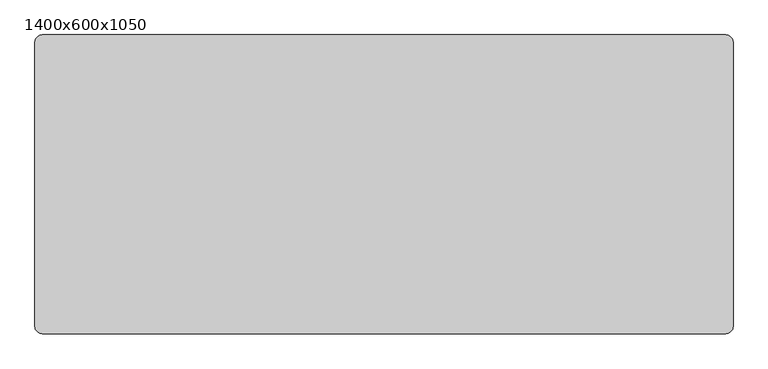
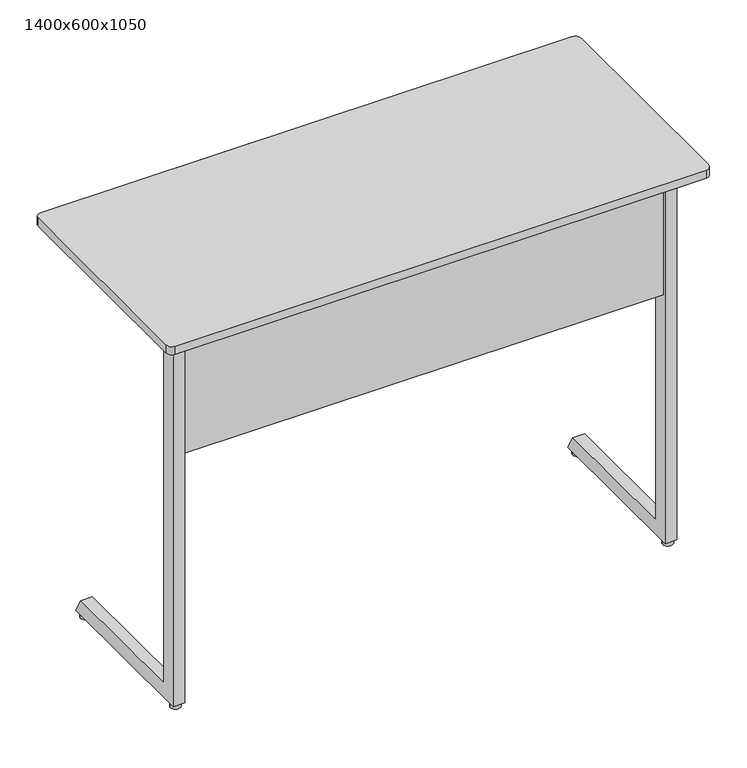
"""IFC4 building model written with IfcOpenShell, lengths in millimetres: furniture geometry, Trivia Light : 1400x600x1050."""

from ifc_helpers import new_model, si_unit, point, frame, frame_2d, origin, origin_with_axes, place, context, project, spatial, polyline, circle_curve, trimmed, segment, composite_curve, outline, extrude, source, transform, mapped, element, save


def furniture_1400x600x1050_ca868ebe(model_context):
    return source(origin(), model_context, "Body", "SweptSolid", [
        extrude(outline(polyline([(484.5100173, 1028.0), (469.9996059, 996.4981092), (104.0, 996.4977978), (104.0, 1028.0), (484.5100173, 1028.0)])), frame((-564.7535601, 0.0, 0.0), z_axis=(1.0, 0.0, 0.0), x_axis=(0.0, 1.0, 0.0)), (0.0, 0.0, 1.0), 30.0),
        extrude(outline(polyline([(1023.7997437, -567.7502136), (1000.730957, -567.7502136), (1000.730957, -599.8065042), (1005.0394353, -611.6439509), (1002.2203574, -612.6700113), (997.730957, -600.3354852), (997.730957, -564.7502136), (1023.7997437, -564.7502136), (1023.7997437, -567.7502136)])), frame((0.0, 265.0, 0.0), z_axis=(0.0, 1.0, 0.0), x_axis=(0.0, 0.0, 1.0)), (0.0, 0.0, 1.0), 30.0),
        extrude(outline(polyline([(1023.7997437, 567.7535601), (1023.7997437, 564.7535601), (997.730957, 564.7535601), (997.730957, 600.3388316), (1002.2203574, 612.6733577), (1005.0394353, 611.6472973), (1000.730957, 599.8098507), (1000.730957, 567.7535601), (1023.7997437, 567.7535601)])), frame((0.0, 265.0, 0.0), z_axis=(0.0, 1.0, 0.0), x_axis=(0.0, 0.0, 1.0)), (0.0, 0.0, 1.0), 30.0),
        extrude(outline(composite_curve([segment(trimmed(circle_curve(frame_2d((-635.0, 85.0)), 13.0), [point((-648.0, 85.0))], [point((-622.0, 85.0))], False, "CARTESIAN"), True, "CONTINUOUS"), segment(trimmed(circle_curve(frame_2d((-635.0, 85.0)), 13.0), [point((-622.0, 85.0))], [point((-648.0, 85.0))], False, "CARTESIAN"), True, "CONTINUOUS")], self_intersect=False)), origin_with_axes(), (0.0, 0.0, 1.0), 13.0905762),
        extrude(outline(composite_curve([segment(trimmed(circle_curve(frame_2d((635.0, 85.0)), 13.0), [point((622.0, 85.0))], [point((648.0, 85.0))], False, "CARTESIAN"), True, "CONTINUOUS"), segment(trimmed(circle_curve(frame_2d((635.0, 85.0)), 13.0), [point((648.0, 85.0))], [point((622.0, 85.0))], False, "CARTESIAN"), True, "CONTINUOUS")], self_intersect=False)), origin_with_axes(), (0.0, 0.0, 1.0), 13.0905762),
        extrude(outline(composite_curve([segment(trimmed(circle_curve(frame_2d((635.0, 487.5)), 13.0), [point((622.0, 487.5))], [point((648.0, 487.5))], False, "CARTESIAN"), True, "CONTINUOUS"), segment(trimmed(circle_curve(frame_2d((635.0, 487.5)), 13.0), [point((648.0, 487.5))], [point((622.0, 487.5))], False, "CARTESIAN"), True, "CONTINUOUS")], self_intersect=False)), origin_with_axes(), (0.0, 0.0, 1.0), 13.0905762),
        extrude(outline(composite_curve([segment(trimmed(circle_curve(frame_2d((-635.0, 487.5)), 13.0), [point((-648.0, 487.5))], [point((-622.0, 487.5))], False, "CARTESIAN"), True, "CONTINUOUS"), segment(trimmed(circle_curve(frame_2d((-635.0, 487.5)), 13.0), [point((-622.0, 487.5))], [point((-648.0, 487.5))], False, "CARTESIAN"), True, "CONTINUOUS")], self_intersect=False)), origin_with_axes(), (0.0, 0.0, 1.0), 13.0905762),
        extrude(outline(polyline([(484.5100173, 1028.0), (469.9996059, 996.4981092), (104.0, 996.4977978), (104.0, 1028.0), (484.5100173, 1028.0)])), frame((534.7535601, 0.0, 0.0), z_axis=(1.0, 0.0, 0.0), x_axis=(0.0, 1.0, 0.0)), (0.0, 0.0, 1.0), 30.0),
        extrude(outline(composite_curve([segment(trimmed(circle_curve(frame_2d((685.0, 585.0)), 15.0), [point((685.0, 600.0))], [point((700.0, 585.0))], False, "CARTESIAN"), True, "CONTINUOUS"), segment(polyline([(700.0, 585.0), (700.0, 15.0)]), True, "CONTINUOUS"), segment(trimmed(circle_curve(frame_2d((685.0, 15.0)), 15.0), [point((700.0, 15.0))], [point((685.0, 0.0))], False, "CARTESIAN"), True, "CONTINUOUS"), segment(polyline([(685.0, 0.0), (-685.0, 0.0)]), True, "CONTINUOUS"), segment(trimmed(circle_curve(frame_2d((-685.0, 15.0)), 15.0), [point((-685.0, 0.0))], [point((-700.0, 15.0))], False, "CARTESIAN"), True, "CONTINUOUS"), segment(polyline([(-700.0, 15.0), (-700.0, 585.0)]), True, "CONTINUOUS"), segment(trimmed(circle_curve(frame_2d((-685.0, 585.0)), 15.0), [point((-700.0, 585.0))], [point((-685.0, 600.0))], False, "CARTESIAN"), True, "CONTINUOUS"), segment(polyline([(-685.0, 600.0), (685.0, 600.0)]), True, "CONTINUOUS")], self_intersect=False)), frame((0.0, 0.0, 1028.0), z_axis=(0.0, 0.0, 1.0), x_axis=(1.0, 0.0, 0.0)), (0.0, 0.0, 1.0), 22.0),
        extrude(outline(polyline([(619.7534307, 104.0), (619.7534307, 74.0), (-619.7534307, 74.0), (-619.7534307, 104.0), (619.7534307, 104.0)])), frame((0.0, 0.0, 986.0), z_axis=(0.0, 0.0, 1.0), x_axis=(1.0, 0.0, 0.0)), (0.0, 0.0, 1.0), 42.0),
        extrude(outline(polyline([(112.0, 51.5905762), (482.1448423, 51.5905762), (504.8944033, 11.5905762), (70.0, 11.5905762), (70.0, 1028.0), (112.0, 1028.0), (112.0, 51.5905762)])), frame((-649.7535601, 0.0, 0.0), z_axis=(1.0, 0.0, 0.0), x_axis=(0.0, 1.0, 0.0)), (0.0, 0.0, 1.0), 30.0001294),
        extrude(outline(polyline([(112.0, 51.5905762), (482.1448423, 51.5905762), (504.8944033, 11.5905762), (70.0, 11.5905762), (70.0, 1028.0), (112.0, 1028.0), (112.0, 51.5905762)])), frame((619.7534307, 0.0, 0.0), z_axis=(1.0, 0.0, 0.0), x_axis=(0.0, 1.0, 0.0)), (0.0, 0.0, 1.0), 30.0001294),
        extrude(outline(polyline([(619.7534307, 95.9187166), (619.7534307, 77.9321552), (-619.7534307, 77.9321552), (-619.7534307, 95.9187166), (619.7534307, 95.9187166)])), frame((0.0, 0.0, 686.5950628), z_axis=(0.0, 0.0, 1.0), x_axis=(1.0, 0.0, 0.0)), (0.0, 0.0, 1.0), 299.4049372),
    ])


if __name__ == "__main__":
    model = new_model("IFC4")
    model_context = context("Model", 3, world=origin())
    ifc_project = project(units=[si_unit("LENGTHUNIT", "METRE", prefix="MILLI")], contexts=[model_context])
    site = spatial("IfcSite", under=ifc_project)
    building = spatial("IfcBuilding", under=site)
    placement = place(None, origin())
    furniture_1400x600x1050_shape = furniture_1400x600x1050_ca868ebe(model_context)
    element("IfcFurniture", 1, ObjectType="Trivia Light : 1400x600x1050", at=placement, inside=building, context=model_context, shape_type="MappedRepresentation", body=[
        mapped(furniture_1400x600x1050_shape, transform((0.0, 0.0, 0.0), x_axis=(1.0, 0.0, 0.0), y_axis=(0.0, 1.0, 0.0), z_axis=(0.0, 0.0, 1.0))),
    ])
    save(model, "model.ifc")
